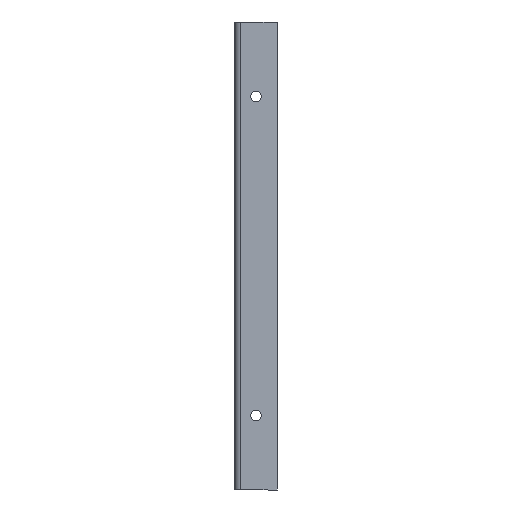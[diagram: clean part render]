
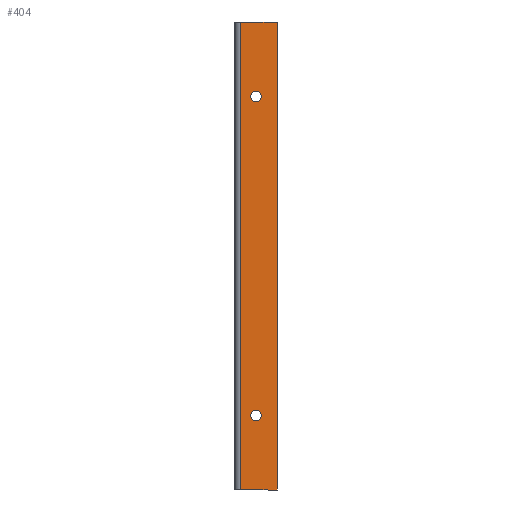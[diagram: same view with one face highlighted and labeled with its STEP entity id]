
A CAD part, front view. The second image highlights one B-rep face of the part: STEP entity #404.
In plain terms, the highlighted planar face has unit normal (0, -1, 0).
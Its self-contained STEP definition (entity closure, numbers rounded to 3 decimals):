
#214 = VERTEX_POINT ( 'NONE', #6114 ) ;
#283 = EDGE_CURVE ( 'NONE', #6348, #4598, #4662, .T. ) ;
#321 = FACE_OUTER_BOUND ( 'NONE', #6890, .T. ) ;
#404 = ADVANCED_FACE ( 'NONE', ( #1512, #2387, #321 ), #432, .T. ) ;
#411 = CIRCLE ( 'NONE', #6042, 2.5 ) ;
#432 = PLANE ( 'NONE',  #5601 ) ;
#535 = CARTESIAN_POINT ( 'NONE',  ( 120., -2., -120. ) ) ;
#853 = ORIENTED_EDGE ( 'NONE', *, *, #6166, .F. ) ;
#949 = DIRECTION ( 'NONE',  ( 1., 0., 0. ) ) ;
#952 = DIRECTION ( 'NONE',  ( 0., 0., -1. ) ) ;
#1085 = VECTOR ( 'NONE', #949, 1000. ) ;
#1185 = DIRECTION ( 'NONE',  ( 0., 0., -1. ) ) ;
#1275 = DIRECTION ( 'NONE',  ( 0., 0., -1. ) ) ;
#1383 = CARTESIAN_POINT ( 'NONE',  ( 102.736, -2., 100. ) ) ;
#1417 = CARTESIAN_POINT ( 'NONE',  ( 110., -2., -82.5 ) ) ;
#1433 = VERTEX_POINT ( 'NONE', #2052 ) ;
#1457 = DIRECTION ( 'NONE',  ( 0., 0., -1. ) ) ;
#1512 = FACE_BOUND ( 'NONE', #6527, .T. ) ;
#1552 = DIRECTION ( 'NONE',  ( -1., 0., 0. ) ) ;
#1827 = DIRECTION ( 'NONE',  ( 0., 0., -1. ) ) ;
#1839 = DIRECTION ( 'NONE',  ( 0., -1., 0. ) ) ;
#1926 = AXIS2_PLACEMENT_3D ( 'NONE', #6196, #1839, #1275 ) ;
#1969 = ORIENTED_EDGE ( 'NONE', *, *, #6754, .T. ) ;
#1979 = EDGE_CURVE ( 'NONE', #3925, #2318, #4083, .T. ) ;
#2052 = CARTESIAN_POINT ( 'NONE',  ( 110., -2., 67.5 ) ) ;
#2108 = VERTEX_POINT ( 'NONE', #6762 ) ;
#2169 = EDGE_LOOP ( 'NONE', ( #3645, #2529 ) ) ;
#2318 = VERTEX_POINT ( 'NONE', #1417 ) ;
#2363 = DIRECTION ( 'NONE',  ( 0., -1., 0. ) ) ;
#2387 = FACE_BOUND ( 'NONE', #2169, .T. ) ;
#2529 = ORIENTED_EDGE ( 'NONE', *, *, #3200, .F. ) ;
#2594 = ORIENTED_EDGE ( 'NONE', *, *, #6587, .F. ) ;
#2698 = DIRECTION ( 'NONE',  ( -1., 0., 0. ) ) ;
#2845 = ORIENTED_EDGE ( 'NONE', *, *, #1979, .F. ) ;
#2848 = CARTESIAN_POINT ( 'NONE',  ( 110., -2., -85. ) ) ;
#2901 = EDGE_CURVE ( 'NONE', #1433, #3693, #411, .T. ) ;
#3110 = CARTESIAN_POINT ( 'NONE',  ( 120., -2., 100. ) ) ;
#3200 = EDGE_CURVE ( 'NONE', #3693, #1433, #4832, .T. ) ;
#3601 = CARTESIAN_POINT ( 'NONE',  ( 120., -2., 100. ) ) ;
#3610 = DIRECTION ( 'NONE',  ( 0., -1., 0. ) ) ;
#3645 = ORIENTED_EDGE ( 'NONE', *, *, #2901, .F. ) ;
#3693 = VERTEX_POINT ( 'NONE', #6687 ) ;
#3869 = ORIENTED_EDGE ( 'NONE', *, *, #3889, .F. ) ;
#3889 = EDGE_CURVE ( 'NONE', #2318, #3925, #6032, .T. ) ;
#3904 = CARTESIAN_POINT ( 'NONE',  ( 120., -2., 100. ) ) ;
#3925 = VERTEX_POINT ( 'NONE', #4605 ) ;
#3986 = CARTESIAN_POINT ( 'NONE',  ( 110., -2., -85. ) ) ;
#4036 = VECTOR ( 'NONE', #2698, 1000. ) ;
#4083 = CIRCLE ( 'NONE', #6489, 2.5 ) ;
#4111 = LINE ( 'NONE', #535, #4036 ) ;
#4277 = VECTOR ( 'NONE', #1185, 1000. ) ;
#4378 = ORIENTED_EDGE ( 'NONE', *, *, #283, .F. ) ;
#4532 = DIRECTION ( 'NONE',  ( 0., 0., -1. ) ) ;
#4598 = VERTEX_POINT ( 'NONE', #3904 ) ;
#4605 = CARTESIAN_POINT ( 'NONE',  ( 110., -2., -87.5 ) ) ;
#4662 = LINE ( 'NONE', #3110, #1085 ) ;
#4832 = CIRCLE ( 'NONE', #1926, 2.5 ) ;
#5088 = DIRECTION ( 'NONE',  ( 0., -1., 0. ) ) ;
#5443 = CARTESIAN_POINT ( 'NONE',  ( 102.736, -2., 100. ) ) ;
#5601 = AXIS2_PLACEMENT_3D ( 'NONE', #7025, #6493, #1552 ) ;
#5819 = CARTESIAN_POINT ( 'NONE',  ( 110., -2., 65. ) ) ;
#5994 = LINE ( 'NONE', #5443, #4277 ) ;
#6001 = LINE ( 'NONE', #3601, #6597 ) ;
#6032 = CIRCLE ( 'NONE', #6738, 2.5 ) ;
#6042 = AXIS2_PLACEMENT_3D ( 'NONE', #5819, #3610, #952 ) ;
#6114 = CARTESIAN_POINT ( 'NONE',  ( 102.736, -2., -120. ) ) ;
#6166 = EDGE_CURVE ( 'NONE', #2108, #214, #4111, .T. ) ;
#6196 = CARTESIAN_POINT ( 'NONE',  ( 110., -2., 65. ) ) ;
#6348 = VERTEX_POINT ( 'NONE', #1383 ) ;
#6489 = AXIS2_PLACEMENT_3D ( 'NONE', #2848, #2363, #1827 ) ;
#6493 = DIRECTION ( 'NONE',  ( 0., -1., 0. ) ) ;
#6527 = EDGE_LOOP ( 'NONE', ( #3869, #2845 ) ) ;
#6587 = EDGE_CURVE ( 'NONE', #4598, #2108, #6001, .T. ) ;
#6597 = VECTOR ( 'NONE', #1457, 1000. ) ;
#6687 = CARTESIAN_POINT ( 'NONE',  ( 110., -2., 62.5 ) ) ;
#6738 = AXIS2_PLACEMENT_3D ( 'NONE', #3986, #5088, #4532 ) ;
#6754 = EDGE_CURVE ( 'NONE', #6348, #214, #5994, .T. ) ;
#6762 = CARTESIAN_POINT ( 'NONE',  ( 120., -2., -120. ) ) ;
#6890 = EDGE_LOOP ( 'NONE', ( #4378, #1969, #853, #2594 ) ) ;
#7025 = CARTESIAN_POINT ( 'NONE',  ( 120., -2., 100. ) ) ;
